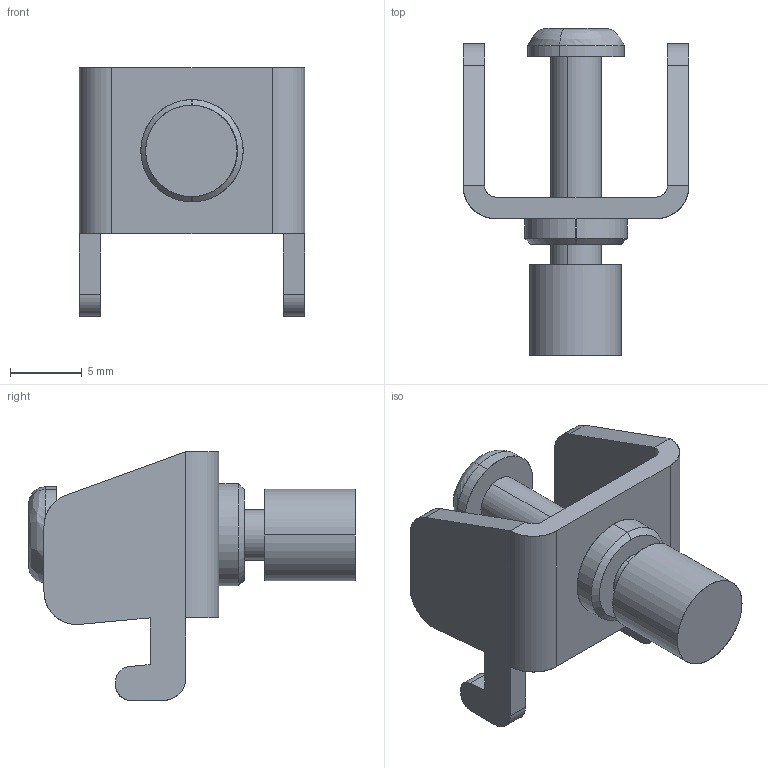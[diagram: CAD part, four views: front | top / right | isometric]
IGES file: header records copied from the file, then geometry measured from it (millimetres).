
Start section: SolidWorks IGES file using analytic representation for surfaces
Global section: file name: W:\Teams\Mech\SE data\SE Library\BYRLCPART#\HW\M\CLP\HWMCLP30-34\HWMCLP30-34.IGS; native system: SolidWorks 2013; preprocessor: SolidWorks 2013; author: ericp; date: 130906.083841; units: millimetre
Bounding box: 15.7 x 22.72 x 17.27 mm (x, y, z)
Surface area: 1728.2 mm2 (no closed solid volume)
Topology: 0 solids, 0 shells, 175 faces, 1524 edges, 1522 vertices
Faces by surface type: bspline 129, revolution 46
